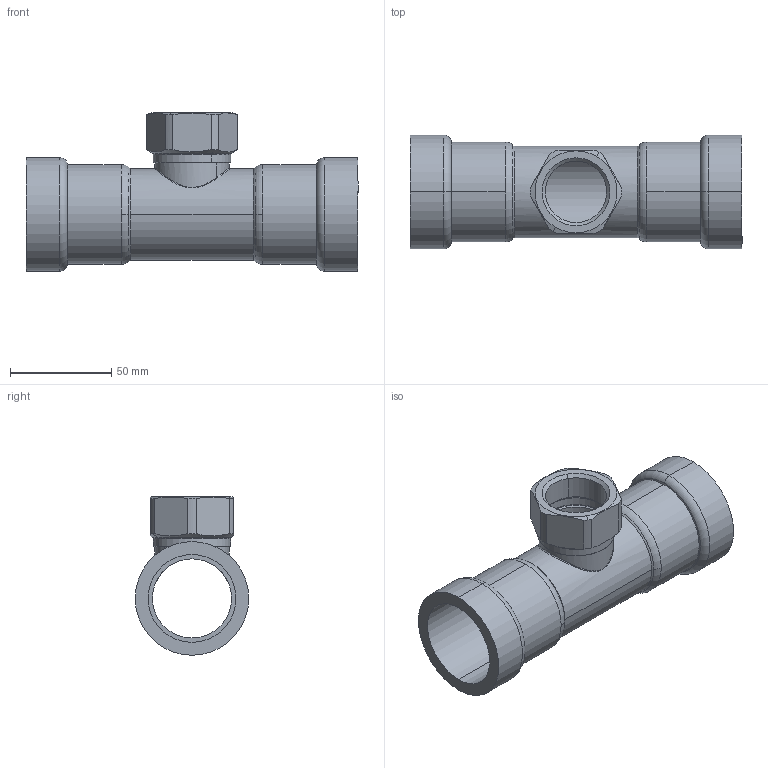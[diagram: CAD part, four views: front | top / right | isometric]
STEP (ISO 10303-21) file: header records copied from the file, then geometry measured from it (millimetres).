
FILE_DESCRIPTION(('Creo Elements/Direct Modeling STEP Export'),'2;1');
FILE_NAME('C9418_1-1-4_Rp1_1-1-4.stp','2020-07-20T16:00:33',(''),(''),'PTC Creo Elements/Direct Modeling STEP processor for AP214 (Solid Model)','PTC Creo Elements/Direct Modeling 19.0C 15-Aug-2015 (C) Parametric Technology GmbH','');
FILE_SCHEMA(('AUTOMOTIVE_DESIGN { 1 0 10303 214 1 1 1 1 }'));
Length unit declared in the file: millimetre
Products named in the file (2): C9418_1-1-4_Rp1_1-1-4
Assembly tree (1 placements, depth 2):
  C9418_1-1-4_Rp1_1-1-4
    C9418_1-1-4_Rp1_1-1-4
Bounding box: 163.66 x 56 x 78.1 mm (x, y, z)
Volume: 103717.6 mm3; surface area: 56281.7 mm2
Topology: 1 solids, 1 shells, 82 faces, 217 edges, 141 vertices
Faces by surface type: cylinder 32, cone 20, torus 14, plane 12, bspline 4
Entity records: 7245 total; most frequent: CARTESIAN_POINT 5358, ORIENTED_EDGE 434, DIRECTION 344, EDGE_CURVE 217, AXIS2_PLACEMENT_3D 143, VERTEX_POINT 141, EDGE_LOOP 90, FACE_OUTER_BOUND 82
